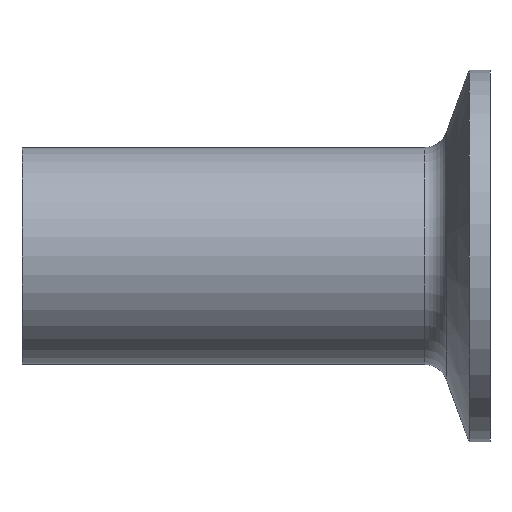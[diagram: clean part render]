
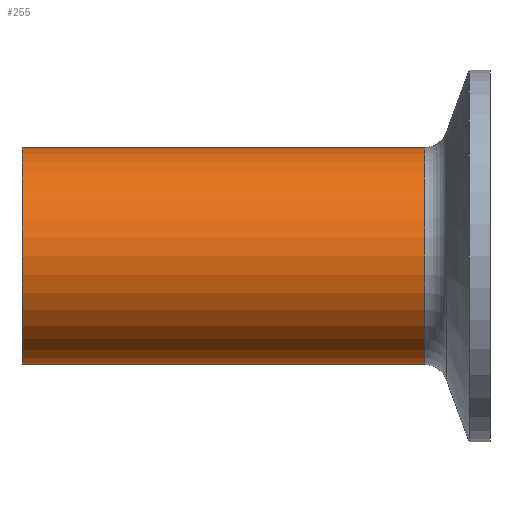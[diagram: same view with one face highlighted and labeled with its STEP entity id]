
A CAD part, left-side view. The second image highlights one B-rep face of the part: STEP entity #255.
In plain terms, the highlighted cylindrical face has radius 14.732 mm (diameter 29.464 mm), a partial arc.
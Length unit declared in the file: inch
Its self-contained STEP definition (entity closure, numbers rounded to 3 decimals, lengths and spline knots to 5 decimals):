
#20 = CYLINDRICAL_SURFACE ( 'NONE', #542, 0.58 ) ;
#53 = DIRECTION ( 'NONE',  ( 0., -1., 0. ) ) ;
#70 = DIRECTION ( 'NONE',  ( 0., 0., -1. ) ) ;
#84 = EDGE_CURVE ( 'NONE', #532, #318, #204, .T. ) ;
#118 = FACE_OUTER_BOUND ( 'NONE', #306, .T. ) ;
#128 = CIRCLE ( 'NONE', #523, 0.58 ) ;
#135 = ORIENTED_EDGE ( 'NONE', *, *, #84, .T. ) ;
#154 = AXIS2_PLACEMENT_3D ( 'NONE', #494, #53, #599 ) ;
#173 = VECTOR ( 'NONE', #641, 39.37008 ) ;
#185 = CARTESIAN_POINT ( 'NONE',  ( 0., 0., -0.58 ) ) ;
#190 = LINE ( 'NONE', #330, #173 ) ;
#200 = CARTESIAN_POINT ( 'NONE',  ( 0., 2.5, 0.58 ) ) ;
#204 = CIRCLE ( 'NONE', #154, 0.58 ) ;
#219 = CARTESIAN_POINT ( 'NONE',  ( 0., 0.34948, 0. ) ) ;
#226 = DIRECTION ( 'NONE',  ( 0., -1., 0. ) ) ;
#245 = VECTOR ( 'NONE', #226, 39.37008 ) ;
#255 = ADVANCED_FACE ( 'NONE', ( #118 ), #20, .T. ) ;
#268 = LINE ( 'NONE', #185, #245 ) ;
#271 = CARTESIAN_POINT ( 'NONE',  ( 0., 0., 0. ) ) ;
#279 = EDGE_CURVE ( 'NONE', #536, #553, #128, .T. ) ;
#304 = EDGE_CURVE ( 'NONE', #318, #536, #268, .T. ) ;
#306 = EDGE_LOOP ( 'NONE', ( #386, #135, #601, #566 ) ) ;
#318 = VERTEX_POINT ( 'NONE', #626 ) ;
#330 = CARTESIAN_POINT ( 'NONE',  ( 0., 0., 0.58 ) ) ;
#363 = DIRECTION ( 'NONE',  ( 0., 1., 0. ) ) ;
#386 = ORIENTED_EDGE ( 'NONE', *, *, #589, .F. ) ;
#396 = CARTESIAN_POINT ( 'NONE',  ( 0., 0.34948, -0.58 ) ) ;
#414 = DIRECTION ( 'NONE',  ( 0., 0., -1. ) ) ;
#494 = CARTESIAN_POINT ( 'NONE',  ( 0., 2.5, 0. ) ) ;
#523 = AXIS2_PLACEMENT_3D ( 'NONE', #219, #363, #414 ) ;
#532 = VERTEX_POINT ( 'NONE', #200 ) ;
#536 = VERTEX_POINT ( 'NONE', #396 ) ;
#542 = AXIS2_PLACEMENT_3D ( 'NONE', #271, #565, #70 ) ;
#553 = VERTEX_POINT ( 'NONE', #634 ) ;
#565 = DIRECTION ( 'NONE',  ( 0., -1., 0. ) ) ;
#566 = ORIENTED_EDGE ( 'NONE', *, *, #279, .T. ) ;
#589 = EDGE_CURVE ( 'NONE', #532, #553, #190, .T. ) ;
#599 = DIRECTION ( 'NONE',  ( 0., 0., -1. ) ) ;
#601 = ORIENTED_EDGE ( 'NONE', *, *, #304, .T. ) ;
#626 = CARTESIAN_POINT ( 'NONE',  ( 0., 2.5, -0.58 ) ) ;
#634 = CARTESIAN_POINT ( 'NONE',  ( 0., 0.34948, 0.58 ) ) ;
#641 = DIRECTION ( 'NONE',  ( 0., -1., 0. ) ) ;
